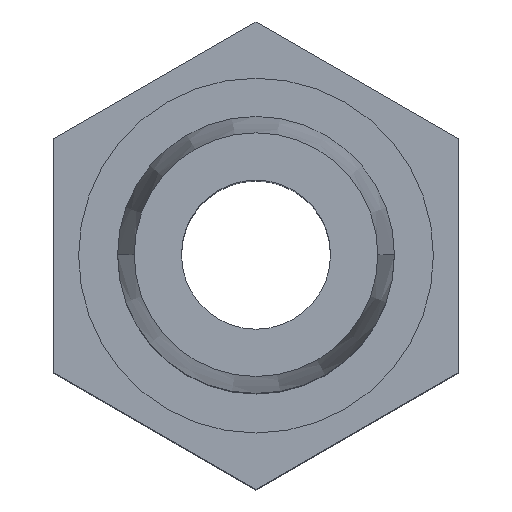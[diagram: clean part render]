
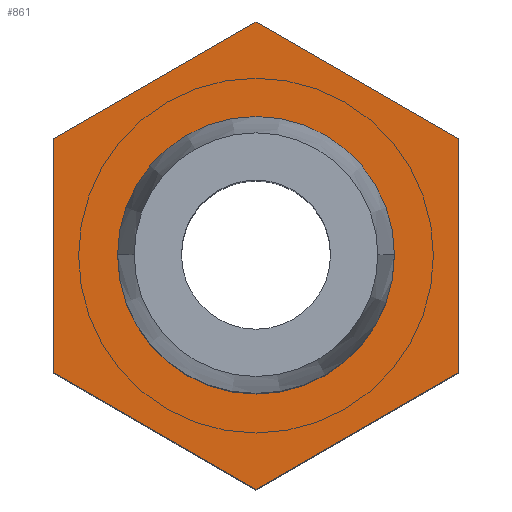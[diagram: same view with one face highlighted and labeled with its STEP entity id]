
A CAD part, top view. The second image highlights one B-rep face of the part: STEP entity #861.
In plain terms, the highlighted planar face has unit normal (0, 0, 1).
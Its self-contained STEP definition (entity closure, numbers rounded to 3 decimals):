
#5 = DIRECTION ( 'NONE',  ( -0.866, -0.5, 0. ) ) ;
#28 = CARTESIAN_POINT ( 'NONE',  ( -9.5, 5.485, 20. ) ) ;
#31 = VECTOR ( 'NONE', #46, 1000. ) ;
#44 = ORIENTED_EDGE ( 'NONE', *, *, #420, .T. ) ;
#46 = DIRECTION ( 'NONE',  ( 0., 1., 0. ) ) ;
#65 = LINE ( 'NONE', #546, #280 ) ;
#86 = AXIS2_PLACEMENT_3D ( 'NONE', #743, #219, #663 ) ;
#99 = AXIS2_PLACEMENT_3D ( 'NONE', #500, #871, #496 ) ;
#101 = CARTESIAN_POINT ( 'NONE',  ( 9.5, -5.485, 20. ) ) ;
#130 = CARTESIAN_POINT ( 'NONE',  ( 9.5, 5.485, 20. ) ) ;
#151 = VECTOR ( 'NONE', #660, 1000. ) ;
#155 = CARTESIAN_POINT ( 'NONE',  ( 9.5, -5.485, 20. ) ) ;
#163 = ORIENTED_EDGE ( 'NONE', *, *, #347, .T. ) ;
#165 = ORIENTED_EDGE ( 'NONE', *, *, #958, .T. ) ;
#177 = LINE ( 'NONE', #879, #151 ) ;
#189 = CARTESIAN_POINT ( 'NONE',  ( -9.5, -5.485, 20. ) ) ;
#219 = DIRECTION ( 'NONE',  ( 0., 0., -1. ) ) ;
#258 = CARTESIAN_POINT ( 'NONE',  ( -9.5, -5.485, 20. ) ) ;
#259 = DIRECTION ( 'NONE',  ( -1., 0., 0. ) ) ;
#262 = DIRECTION ( 'NONE',  ( 0.866, -0.5, 0. ) ) ;
#280 = VECTOR ( 'NONE', #412, 1000. ) ;
#292 = CARTESIAN_POINT ( 'NONE',  ( -9.5, 5.485, 20. ) ) ;
#294 = VERTEX_POINT ( 'NONE', #258 ) ;
#305 = CIRCLE ( 'NONE', #580, 6.5 ) ;
#308 = VECTOR ( 'NONE', #877, 1000. ) ;
#313 = CARTESIAN_POINT ( 'NONE',  ( 0., 10.97, 20. ) ) ;
#347 = EDGE_CURVE ( 'NONE', #294, #418, #883, .T. ) ;
#359 = ORIENTED_EDGE ( 'NONE', *, *, #640, .T. ) ;
#361 = VERTEX_POINT ( 'NONE', #853 ) ;
#362 = CARTESIAN_POINT ( 'NONE',  ( -6.5, 0., 20. ) ) ;
#370 = CIRCLE ( 'NONE', #86, 6.5 ) ;
#378 = ORIENTED_EDGE ( 'NONE', *, *, #813, .T. ) ;
#401 = VERTEX_POINT ( 'NONE', #313 ) ;
#412 = DIRECTION ( 'NONE',  ( 0.866, 0.5, 0. ) ) ;
#418 = VERTEX_POINT ( 'NONE', #685 ) ;
#420 = EDGE_CURVE ( 'NONE', #401, #809, #459, .T. ) ;
#422 = FACE_BOUND ( 'NONE', #610, .T. ) ;
#454 = CARTESIAN_POINT ( 'NONE',  ( 0., 10.97, 20. ) ) ;
#459 = LINE ( 'NONE', #454, #838 ) ;
#496 = DIRECTION ( 'NONE',  ( 1., 0., 0. ) ) ;
#497 = LINE ( 'NONE', #292, #308 ) ;
#500 = CARTESIAN_POINT ( 'NONE',  ( 0., 0., 20. ) ) ;
#531 = DIRECTION ( 'NONE',  ( 0., 0., -1. ) ) ;
#546 = CARTESIAN_POINT ( 'NONE',  ( 0., -10.97, 20. ) ) ;
#580 = AXIS2_PLACEMENT_3D ( 'NONE', #767, #531, #259 ) ;
#585 = EDGE_CURVE ( 'NONE', #361, #609, #370, .T. ) ;
#609 = VERTEX_POINT ( 'NONE', #362 ) ;
#610 = EDGE_LOOP ( 'NONE', ( #928, #969 ) ) ;
#640 = EDGE_CURVE ( 'NONE', #908, #401, #177, .T. ) ;
#660 = DIRECTION ( 'NONE',  ( -0.866, 0.5, 0. ) ) ;
#663 = DIRECTION ( 'NONE',  ( -1., 0., 0. ) ) ;
#676 = EDGE_CURVE ( 'NONE', #809, #294, #497, .T. ) ;
#685 = CARTESIAN_POINT ( 'NONE',  ( 0., -10.97, 20. ) ) ;
#733 = LINE ( 'NONE', #101, #31 ) ;
#743 = CARTESIAN_POINT ( 'NONE',  ( 0., 0., 20. ) ) ;
#759 = VERTEX_POINT ( 'NONE', #155 ) ;
#764 = EDGE_LOOP ( 'NONE', ( #359, #44, #789, #163, #378, #165 ) ) ;
#767 = CARTESIAN_POINT ( 'NONE',  ( 0., 0., 20. ) ) ;
#786 = EDGE_CURVE ( 'NONE', #609, #361, #305, .T. ) ;
#789 = ORIENTED_EDGE ( 'NONE', *, *, #676, .T. ) ;
#804 = FACE_OUTER_BOUND ( 'NONE', #764, .T. ) ;
#809 = VERTEX_POINT ( 'NONE', #28 ) ;
#813 = EDGE_CURVE ( 'NONE', #418, #759, #65, .T. ) ;
#838 = VECTOR ( 'NONE', #5, 1000. ) ;
#853 = CARTESIAN_POINT ( 'NONE',  ( 6.5, 0., 20. ) ) ;
#861 = ADVANCED_FACE ( 'NONE', ( #804, #422 ), #935, .T. ) ;
#871 = DIRECTION ( 'NONE',  ( 0., 0., 1. ) ) ;
#877 = DIRECTION ( 'NONE',  ( 0., -1., 0. ) ) ;
#879 = CARTESIAN_POINT ( 'NONE',  ( 9.5, 5.485, 20. ) ) ;
#883 = LINE ( 'NONE', #189, #909 ) ;
#908 = VERTEX_POINT ( 'NONE', #130 ) ;
#909 = VECTOR ( 'NONE', #262, 1000. ) ;
#928 = ORIENTED_EDGE ( 'NONE', *, *, #585, .T. ) ;
#935 = PLANE ( 'NONE',  #99 ) ;
#958 = EDGE_CURVE ( 'NONE', #759, #908, #733, .T. ) ;
#969 = ORIENTED_EDGE ( 'NONE', *, *, #786, .T. ) ;
